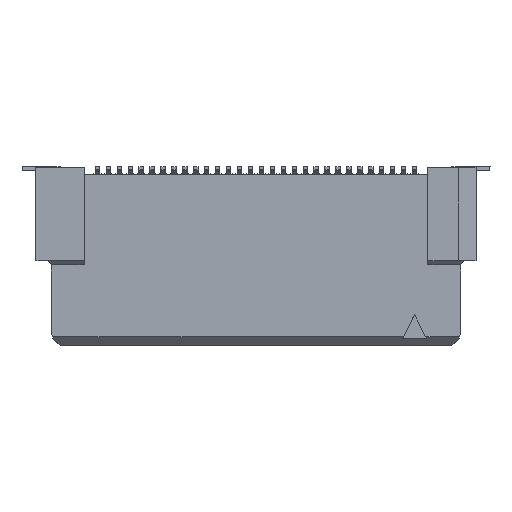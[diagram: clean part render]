
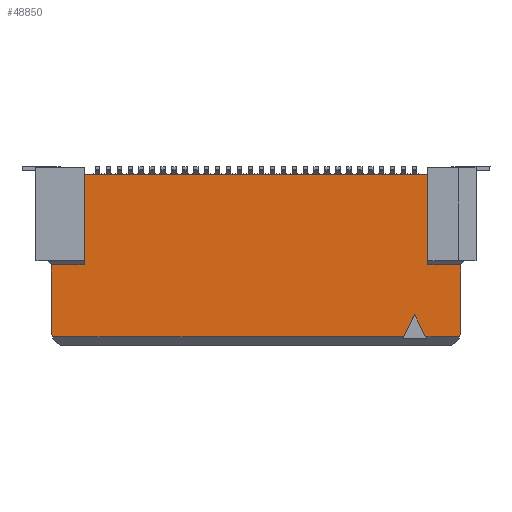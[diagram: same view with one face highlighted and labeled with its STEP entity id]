
A CAD part, front view. The second image highlights one B-rep face of the part: STEP entity #48850.
In plain terms, the highlighted planar face has unit normal (0, -1, 0).
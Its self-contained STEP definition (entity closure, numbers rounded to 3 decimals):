
#4080=CARTESIAN_POINT('',(23.522,1.44,
10.32));
#4090=VERTEX_POINT('',#4080);
#4880=CARTESIAN_POINT('',(23.522,1.44,
6.19));
#4890=VERTEX_POINT('',#4880);
#4920=CARTESIAN_POINT('',(23.522,1.44,
8.755));
#4930=DIRECTION('',(0.,0.,
1.));
#4940=VECTOR('',#4930,1.);
#4950=LINE('',#4920,#4940);
#4960=EDGE_CURVE('',#4890,#4090,#4950,.T.);
#8360=CARTESIAN_POINT('',(25.022,1.44,
6.19));
#8370=VERTEX_POINT('',#8360);
#8400=CARTESIAN_POINT('',(24.372,1.44,
6.19));
#8410=DIRECTION('',(-1.,0.,0.));
#8420=VECTOR('',#8410,1.);
#8430=LINE('',#8400,#8420);
#8440=EDGE_CURVE('',#8370,#4890,#8430,.T.);
#17470=CARTESIAN_POINT('',(25.022,1.44,
3.06));
#17480=VERTEX_POINT('',#17470);
#17510=CARTESIAN_POINT('',(25.022,1.44,
10.39));
#17520=DIRECTION('',(0.,0.,
1.));
#17530=VECTOR('',#17520,1.);
#17540=LINE('',#17510,#17530);
#17550=EDGE_CURVE('',#17480,#8370,#17540,.T.);
#24320=CARTESIAN_POINT('',(24.974,1.44,
2.91));
#24330=VERTEX_POINT('',#24320);
#24360=CARTESIAN_POINT('',(27.371,1.44,
10.39));
#24370=DIRECTION('',(-0.305,0.,
-0.952));
#24380=VECTOR('',#24370,1.);
#24390=LINE('',#24360,#24380);
#24400=EDGE_CURVE('',#17480,#24330,#24390,.T.);
#26780=CARTESIAN_POINT('',(22.912,1.44,
3.91));
#26790=VERTEX_POINT('',#26780);
#26820=CARTESIAN_POINT('',(20.49,1.44,
8.755));
#26830=DIRECTION('',(-0.447,0.,
0.894));
#26840=VECTOR('',#26830,1.);
#26850=LINE('',#26820,#26840);
#26860=CARTESIAN_POINT('',(23.412,1.44,
2.91));
#26870=VERTEX_POINT('',#26860);
#26880=EDGE_CURVE('',#26870,#26790,#26850,.T.);
#47430=CARTESIAN_POINT('',(22.412,1.44,
2.91));
#47440=VERTEX_POINT('',#47430);
#47470=CARTESIAN_POINT('',(25.335,1.44,
8.755));
#47480=DIRECTION('',(-0.447,0.,
-0.894));
#47490=VECTOR('',#47480,1.);
#47500=LINE('',#47470,#47490);
#47510=EDGE_CURVE('',#26790,#47440,#47500,.T.);
#47560=CARTESIAN_POINT('',(2.172,1.44,
2.91));
#47570=DIRECTION('',(0.,1.,
0.));
#47580=DIRECTION('',(0.,0.,
1.));
#47590=AXIS2_PLACEMENT_3D('',#47560,#47570,#47580);
#47600=PLANE('',#47590);
#47610=CARTESIAN_POINT('',(11.152,1.44,
2.91));
#47620=DIRECTION('',(1.,0.,0.));
#47630=VECTOR('',#47620,1.);
#47640=LINE('',#47610,#47630);
#47650=CARTESIAN_POINT('',(7.652,1.44,
2.91));
#47660=VERTEX_POINT('',#47650);
#47670=CARTESIAN_POINT('',(11.162,1.44,
2.91));
#47680=VERTEX_POINT('',#47670);
#47690=EDGE_CURVE('',#47660,#47680,#47640,.T.);
#47700=ORIENTED_EDGE('',*,*,#47690,.T.);
#47710=CARTESIAN_POINT('',(14.458,1.44,
2.91));
#47720=DIRECTION('',(1.,0.,0.));
#47730=VECTOR('',#47720,1.);
#47740=LINE('',#47710,#47730);
#47750=CARTESIAN_POINT('',(6.351,1.44,
2.91));
#47760=VERTEX_POINT('',#47750);
#47770=EDGE_CURVE('',#47760,#47660,#47740,.T.);
#47780=ORIENTED_EDGE('',*,*,#47770,.T.);
#47790=CARTESIAN_POINT('',(3.954,1.44,
10.39));
#47800=DIRECTION('',(0.305,0.,
-0.952));
#47810=VECTOR('',#47800,1.);
#47820=LINE('',#47790,#47810);
#47830=CARTESIAN_POINT('',(6.302,1.44,
3.06));
#47840=VERTEX_POINT('',#47830);
#47850=EDGE_CURVE('',#47840,#47760,#47820,.T.);
#47860=ORIENTED_EDGE('',*,*,#47850,.T.);
#47870=CARTESIAN_POINT('',(6.302,1.44,
10.39));
#47880=DIRECTION('',(0.,0.,
1.));
#47890=VECTOR('',#47880,1.);
#47900=LINE('',#47870,#47890);
#47910=CARTESIAN_POINT('',(6.302,1.44,
6.19));
#47920=VERTEX_POINT('',#47910);
#47930=EDGE_CURVE('',#47840,#47920,#47900,.T.);
#47940=ORIENTED_EDGE('',*,*,#47930,.F.);
#47950=CARTESIAN_POINT('',(6.952,1.44,
6.19));
#47960=DIRECTION('',(1.,0.,0.));
#47970=VECTOR('',#47960,1.);
#47980=LINE('',#47950,#47970);
#47990=CARTESIAN_POINT('',(7.802,1.44,
6.19));
#48000=VERTEX_POINT('',#47990);
#48010=EDGE_CURVE('',#47920,#48000,#47980,.T.);
#48020=ORIENTED_EDGE('',*,*,#48010,.F.);
#48030=CARTESIAN_POINT('',(7.802,1.44,
8.755));
#48040=DIRECTION('',(0.,0.,
1.));
#48050=VECTOR('',#48040,1.);
#48060=LINE('',#48030,#48050);
#48070=CARTESIAN_POINT('',(7.802,1.44,
10.32));
#48080=VERTEX_POINT('',#48070);
#48090=EDGE_CURVE('',#48000,#48080,#48060,.T.);
#48100=ORIENTED_EDGE('',*,*,#48090,.F.);
#48110=CARTESIAN_POINT('',(7.652,1.44,
10.32));
#48120=DIRECTION('',(1.,0.,0.));
#48130=VECTOR('',#48120,1.);
#48140=LINE('',#48110,#48130);
#48150=CARTESIAN_POINT('',(8.162,1.44,
10.32));
#48160=VERTEX_POINT('',#48150);
#48170=EDGE_CURVE('',#48080,#48160,#48140,.T.);
#48180=ORIENTED_EDGE('',*,*,#48170,.F.);
#48190=CARTESIAN_POINT('',(-39.,1.44,
10.32));
#48200=DIRECTION('',(1.,0.,0.));
#48210=VECTOR('',#48200,1.);
#48220=LINE('',#48190,#48210);
#48230=CARTESIAN_POINT('',(13.162,1.44,
10.32));
#48240=VERTEX_POINT('',#48230);
#48250=EDGE_CURVE('',#48160,#48240,#48220,.T.);
#48260=ORIENTED_EDGE('',*,*,#48250,.F.);
#48270=CARTESIAN_POINT('',(-9.,1.44,
10.32));
#48280=DIRECTION('',(1.,0.,0.));
#48290=VECTOR('',#48280,1.);
#48300=LINE('',#48270,#48290);
#48310=CARTESIAN_POINT('',(19.162,1.44,
10.32));
#48320=VERTEX_POINT('',#48310);
#48330=EDGE_CURVE('',#48240,#48320,#48300,.T.);
#48340=ORIENTED_EDGE('',*,*,#48330,.F.);
#48350=CARTESIAN_POINT('',(-2.588,1.44,
10.32));
#48360=DIRECTION('',(1.,0.,0.));
#48370=VECTOR('',#48360,1.);
#48380=LINE('',#48350,#48370);
#48390=CARTESIAN_POINT('',(23.162,1.44,
10.32));
#48400=VERTEX_POINT('',#48390);
#48410=EDGE_CURVE('',#48320,#48400,#48380,.T.);
#48420=ORIENTED_EDGE('',*,*,#48410,.F.);
#48430=CARTESIAN_POINT('',(23.672,1.44,
10.32));
#48440=DIRECTION('',(-1.,0.,0.));
#48450=VECTOR('',#48440,1.);
#48460=LINE('',#48430,#48450);
#48470=EDGE_CURVE('',#4090,#48400,#48460,.T.);
#48480=ORIENTED_EDGE('',*,*,#48470,.T.);
#48490=ORIENTED_EDGE('',*,*,#4960,.T.);
#48500=ORIENTED_EDGE('',*,*,#8440,.T.);
#48510=ORIENTED_EDGE('',*,*,#17550,.T.);
#48520=ORIENTED_EDGE('',*,*,#24400,.F.);
#48530=CARTESIAN_POINT('',(16.867,1.44,
2.91));
#48540=DIRECTION('',(-1.,0.,0.));
#48550=VECTOR('',#48540,1.);
#48560=LINE('',#48530,#48550);
#48570=CARTESIAN_POINT('',(23.672,1.44,
2.91));
#48580=VERTEX_POINT('',#48570);
#48590=EDGE_CURVE('',#24330,#48580,#48560,.T.);
#48600=ORIENTED_EDGE('',*,*,#48590,.F.);
#48610=CARTESIAN_POINT('',(-2.348,1.44,
2.91));
#48620=DIRECTION('',(1.,0.,0.));
#48630=VECTOR('',#48620,1.);
#48640=LINE('',#48610,#48630);
#48650=EDGE_CURVE('',#26870,#48580,#48640,.T.);
#48660=ORIENTED_EDGE('',*,*,#48650,.T.);
#48670=ORIENTED_EDGE('',*,*,#26880,.F.);
#48680=ORIENTED_EDGE('',*,*,#47510,.F.);
#48690=CARTESIAN_POINT('',(6.152,1.44,
2.91));
#48700=DIRECTION('',(1.,0.,0.));
#48710=VECTOR('',#48700,1.);
#48720=LINE('',#48690,#48710);
#48730=CARTESIAN_POINT('',(13.162,1.44,
2.91));
#48740=VERTEX_POINT('',#48730);
#48750=EDGE_CURVE('',#48740,#47440,#48720,.T.);
#48760=ORIENTED_EDGE('',*,*,#48750,.T.);
#48770=CARTESIAN_POINT('',(-23.848,1.44,
2.91));
#48780=DIRECTION('',(1.,0.,0.));
#48790=VECTOR('',#48780,1.);
#48800=LINE('',#48770,#48790);
#48810=EDGE_CURVE('',#47680,#48740,#48800,.T.);
#48820=ORIENTED_EDGE('',*,*,#48810,.T.);
#48830=EDGE_LOOP('',(#48820,#48760,#48680,#48670,#48660,#48600,#48520,
#48510,#48500,#48490,#48480,#48420,#48340,#48260,#48180,#48100,#48020,
#47940,#47860,#47780,#47700));
#48840=FACE_OUTER_BOUND('',#48830,.T.);
#48850=ADVANCED_FACE('',(#48840),#47600,.F.);
